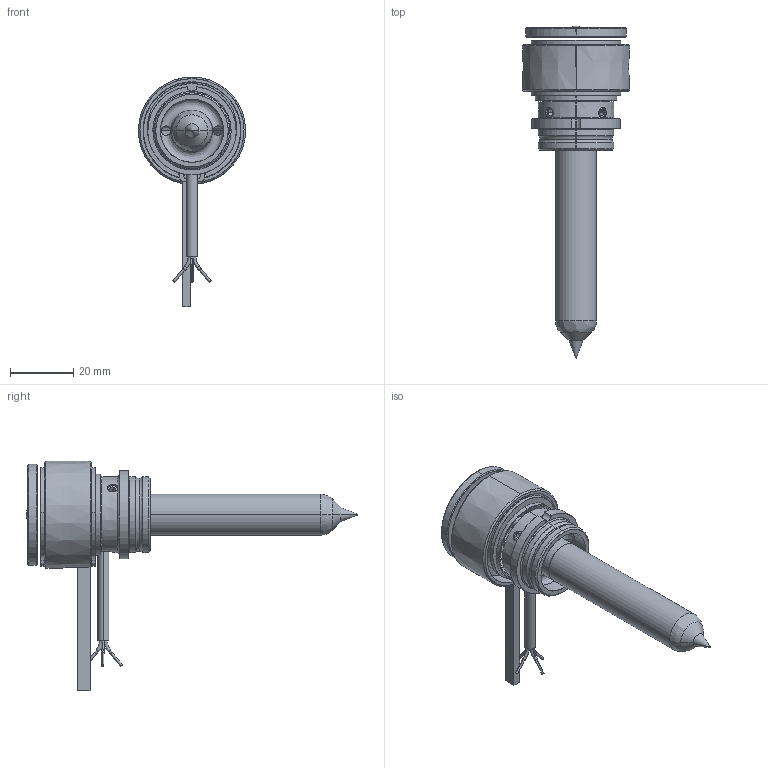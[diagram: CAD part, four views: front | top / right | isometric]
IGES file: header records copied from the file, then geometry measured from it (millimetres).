
Start section: SolidWorks IGES file using analytic representation for surfaces
Global section: file name: C:\Documents and Settings\ws-20\Desktop\TEM\UGGS2540-S-1 [Øf-0.25].IGS; native system: SolidWorks 2012; preprocessor: SolidWorks 2012; author: ws-20; date: 120516.093453; units: millimetre
Bounding box: 34 x 105.3 x 72.9 mm (x, y, z)
Surface area: 16800.1 mm2 (no closed solid volume)
Topology: 0 solids, 0 shells, 205 faces, 2947 edges, 2941 vertices
Faces by surface type: revolution 129, bspline 76
